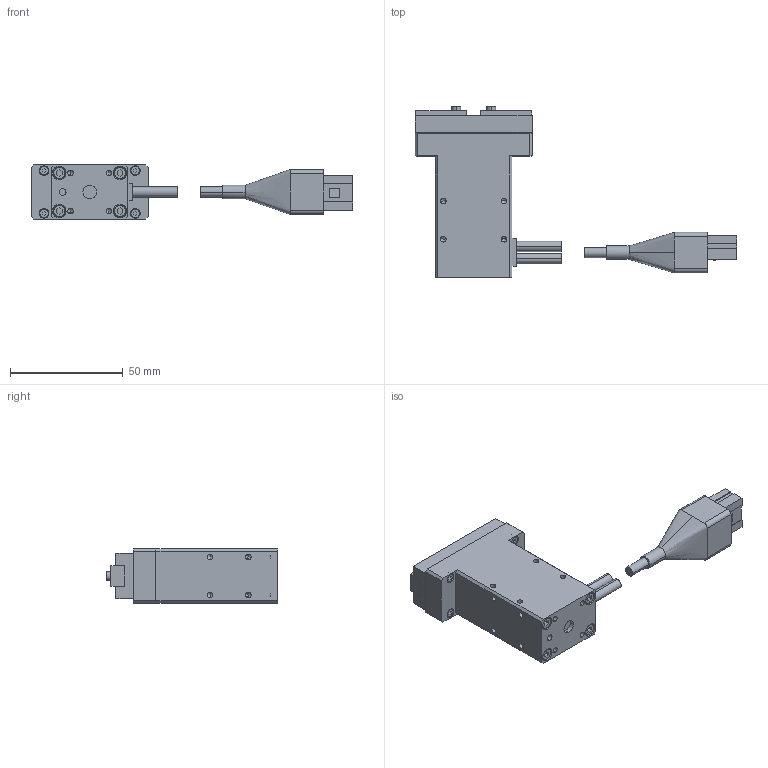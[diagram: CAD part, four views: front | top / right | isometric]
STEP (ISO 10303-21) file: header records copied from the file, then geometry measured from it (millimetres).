
FILE_DESCRIPTION (( 'STEP AP214' ), '1' );
FILE_NAME ('ESG1-SD-2005.STEP', '2009-02-12T08:22:12', ( '風音庵' ), ( '' ), 'SwSTEP 2.0', 'SolidWorks 2007', '' );
FILE_SCHEMA (( 'AUTOMOTIVE_DESIGN' ));
Length unit declared in the file: millimetre
Products named in the file (6): ESG1-SD-2005 FINGER_蹬怮椔; ESG1-SD-2005 BODY_蹬怮椔; CNNECTOR丂BB丂ASSY_棉太倌; CONNECTOR COVER　BB_ﾃﾞﾌｫﾙﾄ; CONNECTOR　DK-2100D-12R_ﾃﾞﾌｫﾙﾄ; ESG1-SD-2005
Assembly tree (6 placements, depth 3):
  ESG1-SD-2005
    CNNECTOR丂BB丂ASSY_棉太倌
      CONNECTOR COVER　BB_ﾃﾞﾌｫﾙﾄ
      CONNECTOR　DK-2100D-12R_ﾃﾞﾌｫﾙﾄ
    ESG1-SD-2005 FINGER_蹬怮椔  x2
    ESG1-SD-2005 BODY_蹬怮椔
Bounding box: 142.89 x 76 x 24 mm (x, y, z)
Volume: 72783.6 mm3; surface area: 22857.1 mm2
Topology: 5 solids, 5 shells, 402 faces, 974 edges, 610 vertices
Faces by surface type: plane 244, cylinder 104, cone 52, bspline 2
Entity records: 15700 total; most frequent: CARTESIAN_POINT 2319, DIRECTION 1888, ORIENTED_EDGE 1800, EDGE_CURVE 900, VECTOR 690, LINE 690, AXIS2_PLACEMENT_3D 599, VERTEX_POINT 588
